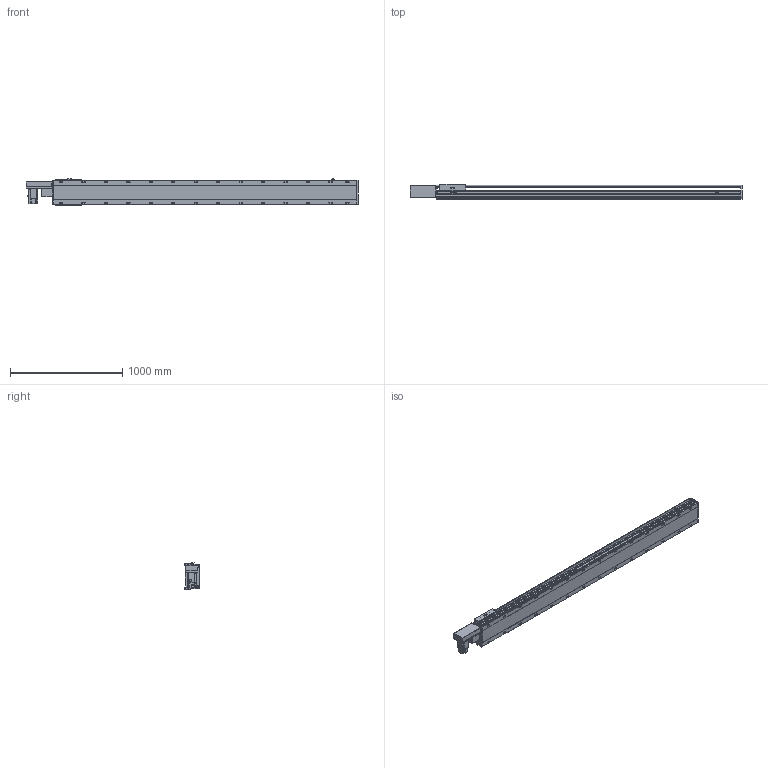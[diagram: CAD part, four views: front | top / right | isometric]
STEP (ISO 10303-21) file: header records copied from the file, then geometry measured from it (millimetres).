
FILE_DESCRIPTION(/* description */ ('STEP AP214'),/* implementation_level */ '2;1');
FILE_NAME(/* name */ 'PBS220-P40-S2350-R-T75-C1-N(0)',/* time_stamp */ '2022-06-11T10:02:44+02:00',/* author */ ('License CC BY-ND 4.0'),/* organization */ ('CADENAS'),/* preprocessor_version */ 'ST-DEVELOPER v18.102',/* originating_system */ 'PARTsolutions',/* authorisation */ ' ');
FILE_SCHEMA (('AUTOMOTIVE_DESIGN {1 0 10303 214 3 1 1}'));
Length unit declared in the file: millimetre
Products named in the file (7): PBS220-P40-S2350-R-T75-C1-N(0); PBS220_sensor; PBS220_plant; PBS220_sliser; T75-p1; PBS220T-R_motors; PBS220-S2350()_body
Assembly tree (8 placements, depth 2):
  PBS220-P40-S2350-R-T75-C1-N(0)
    PBS220_sensor  x3
    PBS220_plant
    PBS220_sliser
    T75-p1
    PBS220T-R_motors
    PBS220-S2350()_body
Bounding box: 2956 x 134 x 238.5 mm (x, y, z)
Volume: 39639273.3 mm3; surface area: 3647209.2 mm2
Topology: 8 solids, 8 shells, 986 faces, 2564 edges, 1666 vertices
Faces by surface type: plane 622, cylinder 312, cone 52
Full cylindrical faces by diameter (mm): 2.013 x4, 4.5 x14, 4.917 x4, 6 x7, 6.647 x8, 8 x10, 8.376 x28, 8.5 x28, 10 x6, 14 x28, 38 x2, 40 x1, 70 x1
Entity records: 27501 total; most frequent: CARTESIAN_POINT 4888, DIRECTION 4779, ORIENTED_EDGE 4322, EDGE_CURVE 2161, AXIS2_PLACEMENT_3D 1711, VERTEX_POINT 1512, LINE 1357, VECTOR 1357
